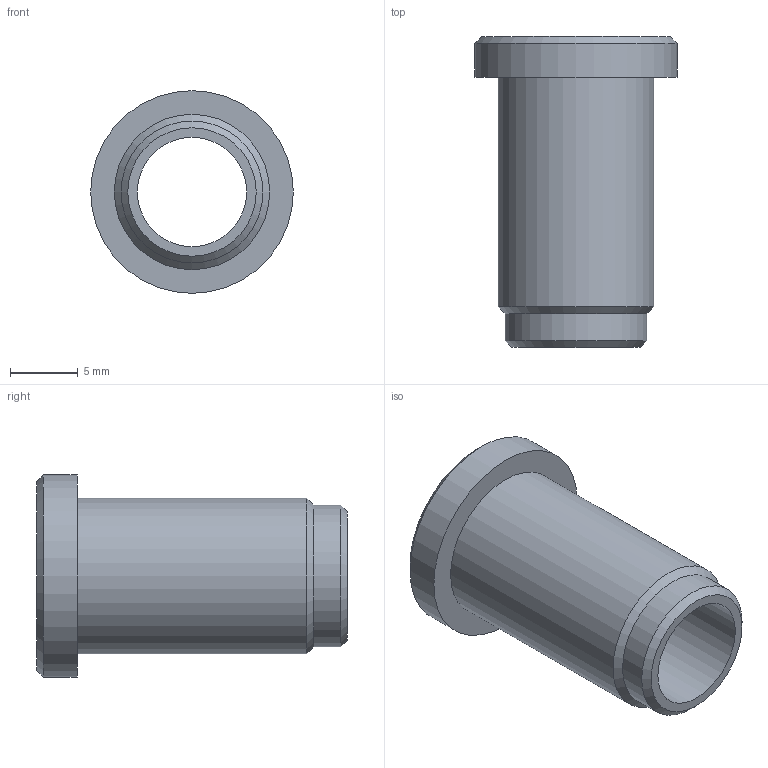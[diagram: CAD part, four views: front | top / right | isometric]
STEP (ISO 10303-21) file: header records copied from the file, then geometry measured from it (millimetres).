
FILE_DESCRIPTION (( 'STEP AP214' ), '1' );
FILE_NAME ('L16101.step', '2024-12-03T16:21:05', ( '' ), ( '' ), 'SwSTEP 2.0', 'SolidWorks 2023', '' );
FILE_SCHEMA (( 'AUTOMOTIVE_DESIGN' ));
Length unit declared in the file: millimetre
Products named in the file (1): L16101
Bounding box: 15 x 23 x 15 mm (x, y, z)
Volume: 1364.4 mm3; surface area: 1656.8 mm2
Topology: 1 solids, 1 shells, 10 faces, 18 edges, 11 vertices
Faces by surface type: cylinder 4, plane 3, cone 3
Full cylindrical faces by diameter (mm): 8.102 x1, 10.5 x1, 11.5 x1, 15 x1
Entity records: 231 total; most frequent: DIRECTION 42, CARTESIAN_POINT 31, AXIS2_PLACEMENT_3D 21, ORIENTED_EDGE 20, EDGE_LOOP 20, FACE_OUTER_BOUND 14, CIRCLE 10, ADVANCED_FACE 10
